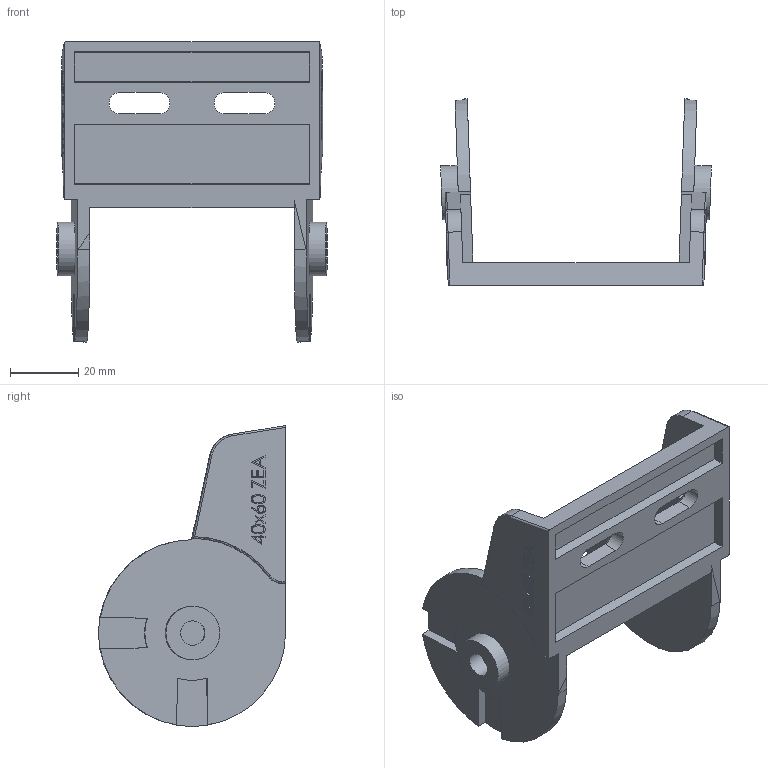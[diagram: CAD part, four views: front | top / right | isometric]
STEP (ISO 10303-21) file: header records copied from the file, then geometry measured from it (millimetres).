
FILE_DESCRIPTION((''),'2; 1');
FILE_NAME('','2026-03-26T10:14:11',(''),(''),'CST STEP Exporter V1.0','Unknown','');
FILE_SCHEMA(('CONFIG_CONTROL_DESIGN'));
Length unit declared in the file: metre
Bounding box: 79.46 x 54.85 x 88.23 mm (x, y, z)
Surface area: 23761.3 mm2 (no closed solid volume)
Topology: 0 solids, 1 shells, 257 faces, 855 edges, 581 vertices
Faces by surface type: plane 169, cylinder 53, extrusion 27, torus 4, cone 4
Full cylindrical faces by diameter (mm): 7.147 x1, 7.845 x1, 15.8 x2
Entity records: 12064 total; most frequent: CARTESIAN_POINT 2697, ORIENTED_EDGE 1455, DIRECTION 1450, EDGE_CURVE 847, VECTOR 616, LINE 589, VERTEX_POINT 577, AXIS2_PLACEMENT_3D 417
